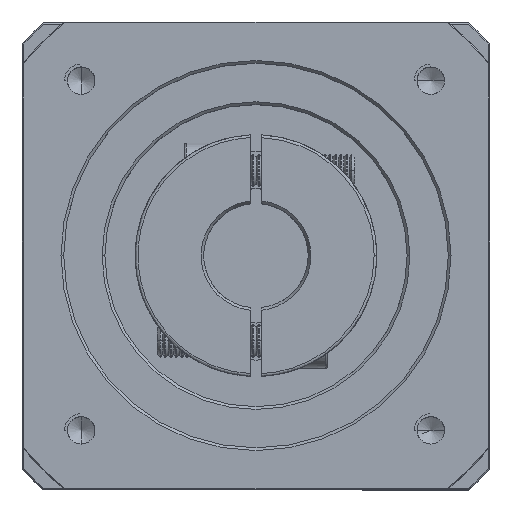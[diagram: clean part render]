
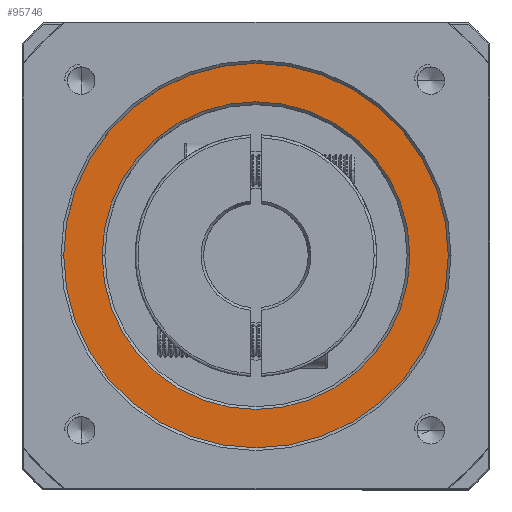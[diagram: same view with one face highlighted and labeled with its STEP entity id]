
A CAD part, top view. The second image highlights one B-rep face of the part: STEP entity #95746.
In plain terms, the highlighted planar face has unit normal (0, 0, 1).
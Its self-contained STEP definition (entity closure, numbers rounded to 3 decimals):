
#5344 = DIRECTION ( 'NONE',  ( 1., 0., 0. ) ) ;
#10334 = EDGE_LOOP ( 'NONE', ( #60775, #74070 ) ) ;
#12169 = DIRECTION ( 'NONE',  ( 0., 0., -1. ) ) ;
#13318 = AXIS2_PLACEMENT_3D ( 'NONE', #105006, #83761, #75060 ) ;
#14625 = AXIS2_PLACEMENT_3D ( 'NONE', #103024, #103458, #54286 ) ;
#25608 = FACE_BOUND ( 'NONE', #10334, .T. ) ;
#28951 = AXIS2_PLACEMENT_3D ( 'NONE', #113951, #65336, #5344 ) ;
#29691 = DIRECTION ( 'NONE',  ( 1., 0., 0. ) ) ;
#35320 = PLANE ( 'NONE',  #28951 ) ;
#38993 = AXIS2_PLACEMENT_3D ( 'NONE', #41682, #12169, #111628 ) ;
#39836 = CARTESIAN_POINT ( 'NONE',  ( -86.678, 33.802, 14.609 ) ) ;
#41206 = VERTEX_POINT ( 'NONE', #55136 ) ;
#41682 = CARTESIAN_POINT ( 'NONE',  ( -51.678, 33.802, 14.609 ) ) ;
#44253 = AXIS2_PLACEMENT_3D ( 'NONE', #80517, #60064, #29691 ) ;
#51403 = EDGE_CURVE ( 'NONE', #41206, #70860, #105838, .T. ) ;
#53614 = FACE_OUTER_BOUND ( 'NONE', #54085, .T. ) ;
#54085 = EDGE_LOOP ( 'NONE', ( #74789, #81111 ) ) ;
#54286 = DIRECTION ( 'NONE',  ( 1., 0., 0. ) ) ;
#55136 = CARTESIAN_POINT ( 'NONE',  ( -16.678, 33.802, 14.609 ) ) ;
#57693 = CARTESIAN_POINT ( 'NONE',  ( -23.678, 33.802, 14.609 ) ) ;
#60064 = DIRECTION ( 'NONE',  ( 0., 0., 1. ) ) ;
#60302 = CIRCLE ( 'NONE', #14625, 28. ) ;
#60775 = ORIENTED_EDGE ( 'NONE', *, *, #110478, .T. ) ;
#65336 = DIRECTION ( 'NONE',  ( 0., 0., 1. ) ) ;
#70860 = VERTEX_POINT ( 'NONE', #39836 ) ;
#72577 = CIRCLE ( 'NONE', #38993, 28. ) ;
#74070 = ORIENTED_EDGE ( 'NONE', *, *, #128088, .T. ) ;
#74789 = ORIENTED_EDGE ( 'NONE', *, *, #51403, .T. ) ;
#75060 = DIRECTION ( 'NONE',  ( 1., 0., 0. ) ) ;
#80517 = CARTESIAN_POINT ( 'NONE',  ( -51.678, 33.802, 14.609 ) ) ;
#81111 = ORIENTED_EDGE ( 'NONE', *, *, #125457, .T. ) ;
#83761 = DIRECTION ( 'NONE',  ( 0., 0., 1. ) ) ;
#86423 = CIRCLE ( 'NONE', #44253, 35. ) ;
#89804 = CARTESIAN_POINT ( 'NONE',  ( -79.678, 33.802, 14.609 ) ) ;
#95746 = ADVANCED_FACE ( 'NONE', ( #53614, #25608 ), #35320, .T. ) ;
#103024 = CARTESIAN_POINT ( 'NONE',  ( -51.678, 33.802, 14.609 ) ) ;
#103458 = DIRECTION ( 'NONE',  ( 0., 0., -1. ) ) ;
#105006 = CARTESIAN_POINT ( 'NONE',  ( -51.678, 33.802, 14.609 ) ) ;
#105838 = CIRCLE ( 'NONE', #13318, 35. ) ;
#109616 = VERTEX_POINT ( 'NONE', #89804 ) ;
#110478 = EDGE_CURVE ( 'NONE', #128492, #109616, #72577, .T. ) ;
#111628 = DIRECTION ( 'NONE',  ( 1., 0., 0. ) ) ;
#113951 = CARTESIAN_POINT ( 'NONE',  ( -51.678, 33.802, 14.609 ) ) ;
#125457 = EDGE_CURVE ( 'NONE', #70860, #41206, #86423, .T. ) ;
#128088 = EDGE_CURVE ( 'NONE', #109616, #128492, #60302, .T. ) ;
#128492 = VERTEX_POINT ( 'NONE', #57693 ) ;
